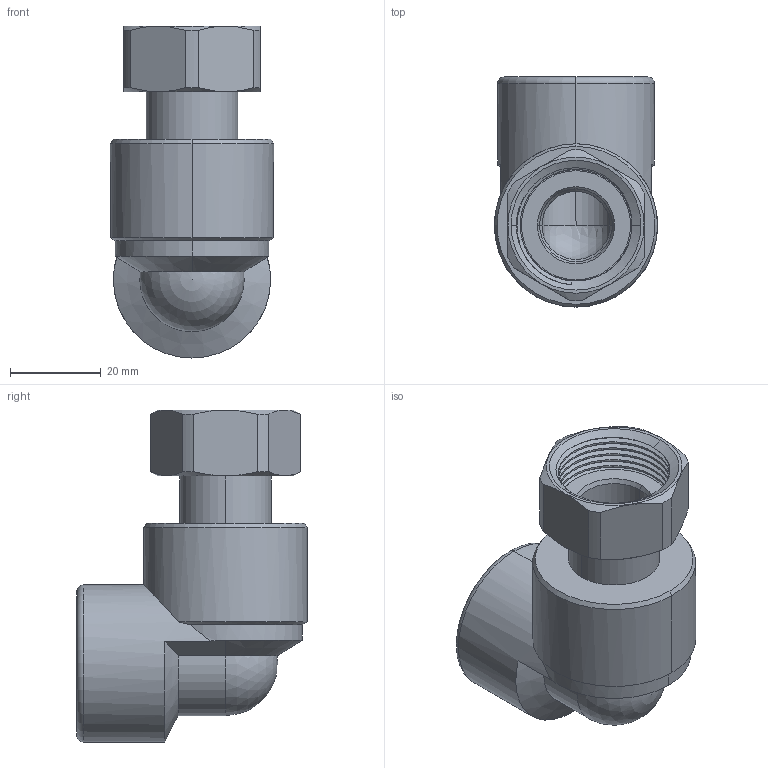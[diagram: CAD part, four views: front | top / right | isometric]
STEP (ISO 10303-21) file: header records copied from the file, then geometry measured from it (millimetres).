
FILE_DESCRIPTION (( 'STEP AP203' ), '1' );
FILE_NAME ('PPG22_ASM.STEP', '2022-08-23T13:45:50', ( '' ), ( '' ), 'SwSTEP 2.0', 'SolidWorks 2021', '' );
FILE_SCHEMA (( 'CONFIG_CONTROL_DESIGN' ));
Length unit declared in the file: millimetre
Products named in the file (4): PPG22_NUT; PPG22_ASM; PPG22_INSERT; PPG22_PLASTIC
Assembly tree (3 placements, depth 2):
  PPG22_ASM
    PPG22_PLASTIC
    PPG22_INSERT
    PPG22_NUT
Bounding box: 35.9 x 50.65 x 73.03 mm (x, y, z)
Volume: 41240.3 mm3; surface area: 20425.1 mm2
Topology: 3 solids, 3 shells, 170 faces, 433 edges, 280 vertices
Faces by surface type: cylinder 80, plane 62, cone 21, bspline 3, torus 2, sphere 2
Entity records: 7311 total; most frequent: CARTESIAN_POINT 2828, DIRECTION 874, ORIENTED_EDGE 854, EDGE_CURVE 427, AXIS2_PLACEMENT_3D 354, VERTEX_POINT 277, EDGE_LOOP 190, CIRCLE 181
